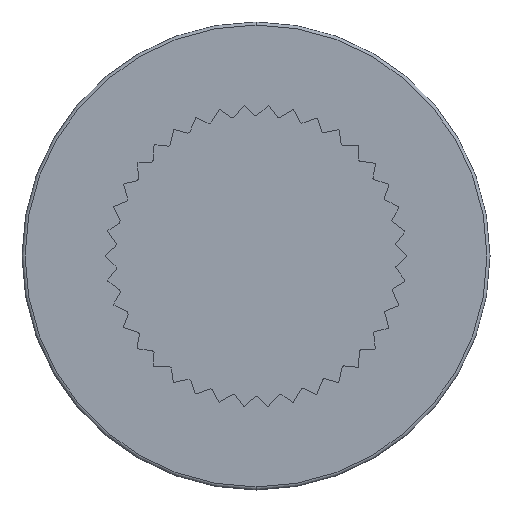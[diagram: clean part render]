
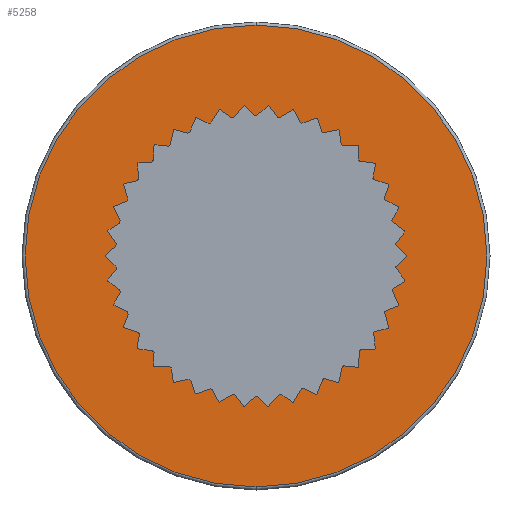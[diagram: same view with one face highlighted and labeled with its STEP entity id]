
A CAD part, front view. The second image highlights one B-rep face of the part: STEP entity #5258.
In plain terms, the highlighted planar face has unit normal (0, -1, 0).
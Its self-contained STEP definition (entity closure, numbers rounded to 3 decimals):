
#1 = AXIS2_PLACEMENT_3D ( 'NONE', #2669, #5741, #923 ) ;
#703 = DIRECTION ( 'NONE',  ( 0., -1., 0. ) ) ;
#815 = DIRECTION ( 'NONE',  ( 0., 0., 1. ) ) ;
#818 = CIRCLE ( 'NONE', #5235, 296. ) ;
#923 = DIRECTION ( 'NONE',  ( 0., 0., 1. ) ) ;
#1160 = ORIENTED_EDGE ( 'NONE', *, *, #1919, .T. ) ;
#1919 = EDGE_CURVE ( 'NONE', #2821, #2975, #818, .T. ) ;
#2050 = CARTESIAN_POINT ( 'NONE',  ( 0., 375., 0. ) ) ;
#2079 = FACE_OUTER_BOUND ( 'NONE', #4767, .T. ) ;
#2111 = PLANE ( 'NONE',  #1 ) ;
#2411 = CARTESIAN_POINT ( 'NONE',  ( 0., 375., 296. ) ) ;
#2578 = ORIENTED_EDGE ( 'NONE', *, *, #4967, .T. ) ;
#2669 = CARTESIAN_POINT ( 'NONE',  ( 0., 375., 0. ) ) ;
#2821 = VERTEX_POINT ( 'NONE', #2411 ) ;
#2975 = VERTEX_POINT ( 'NONE', #7353 ) ;
#3872 = AXIS2_PLACEMENT_3D ( 'NONE', #2050, #7302, #815 ) ;
#4632 = CIRCLE ( 'NONE', #3872, 296. ) ;
#4767 = EDGE_LOOP ( 'NONE', ( #1160, #2578 ) ) ;
#4967 = EDGE_CURVE ( 'NONE', #2975, #2821, #4632, .T. ) ;
#5235 = AXIS2_PLACEMENT_3D ( 'NONE', #5578, #703, #6680 ) ;
#5258 = ADVANCED_FACE ( 'NONE', ( #2079 ), #2111, .F. ) ;
#5578 = CARTESIAN_POINT ( 'NONE',  ( 0., 375., 0. ) ) ;
#5741 = DIRECTION ( 'NONE',  ( 0., 1., 0. ) ) ;
#6680 = DIRECTION ( 'NONE',  ( 0., 0., 1. ) ) ;
#7302 = DIRECTION ( 'NONE',  ( 0., -1., 0. ) ) ;
#7353 = CARTESIAN_POINT ( 'NONE',  ( 0., 375., -296. ) ) ;
